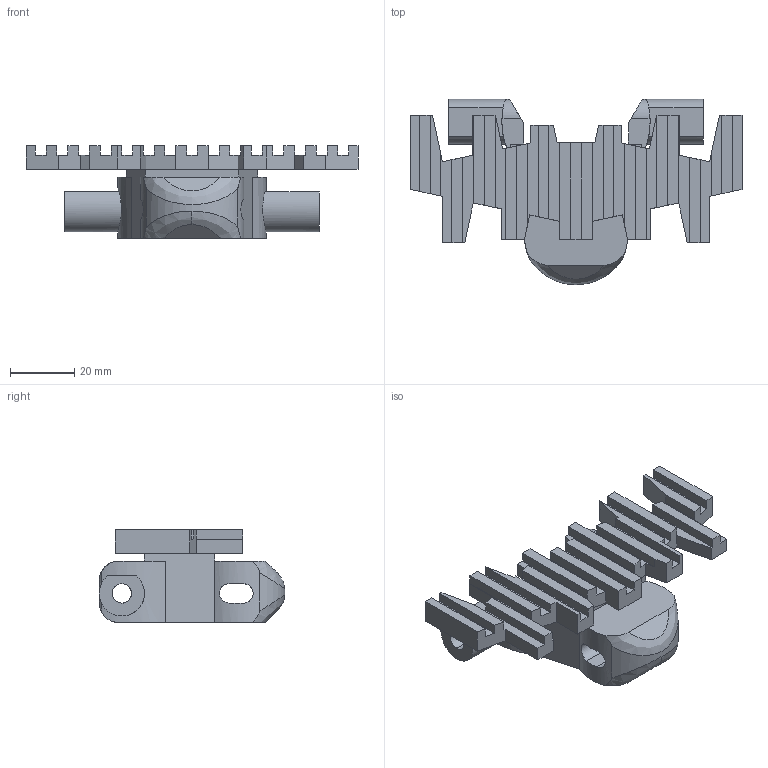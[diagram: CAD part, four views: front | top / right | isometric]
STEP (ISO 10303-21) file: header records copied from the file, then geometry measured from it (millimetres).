
FILE_DESCRIPTION (( 'STEP AP214' ), '1' );
FILE_NAME ('FCRB 5A.step', '2017-04-04T13:29:14', ( '' ), ( '' ), 'SwSTEP 2.0', 'SolidWorks 2015', '' );
FILE_SCHEMA (( 'AUTOMOTIVE_DESIGN' ));
Length unit declared in the file: millimetre
Products named in the file (1): FCRB 5A
Bounding box: 103 x 57.5 x 28.8 mm (x, y, z)
Volume: 41186 mm3; surface area: 18961.4 mm2
Topology: 1 solids, 1 shells, 164 faces, 492 edges, 327 vertices
Faces by surface type: plane 133, cylinder 28, bspline 3
Entity records: 7128 total; most frequent: CARTESIAN_POINT 2851, ORIENTED_EDGE 984, DIRECTION 726, EDGE_CURVE 492, VECTOR 396, LINE 396, VERTEX_POINT 327, EDGE_LOOP 167
